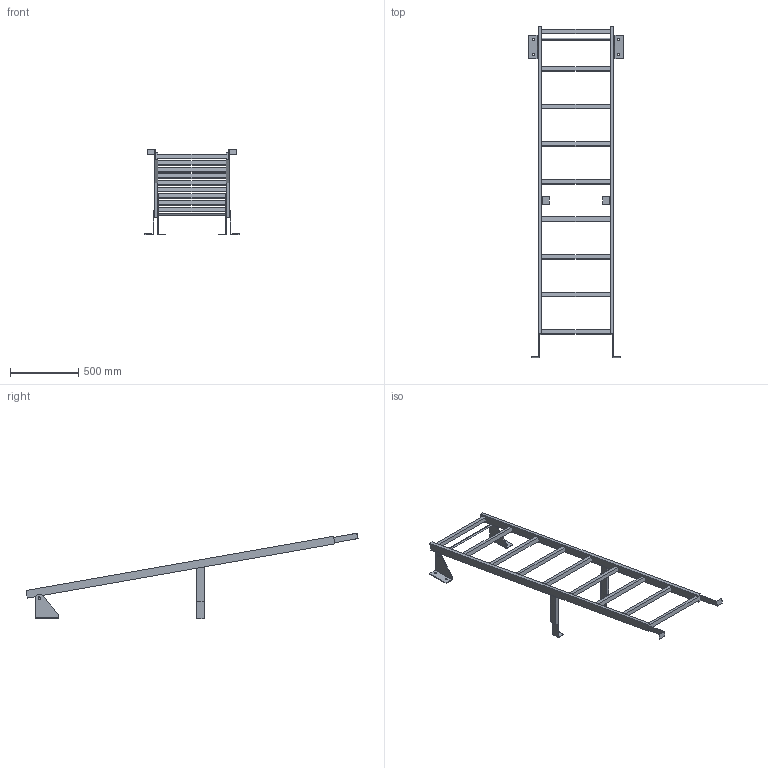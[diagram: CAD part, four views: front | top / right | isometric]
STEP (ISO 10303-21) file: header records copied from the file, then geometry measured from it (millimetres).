
FILE_DESCRIPTION((''),'2;1');
FILE_NAME('52309761','2024-10-17T08:59:10',('wep'),('HUBER SE'),'CREO PARAMETRIC BY PTC INC, 2022162','CREO PARAMETRIC BY PTC INC, 2022162','');
FILE_SCHEMA(('AUTOMOTIVE_DESIGN { 1 0 10303 214 1 1 1 1 }'));
Length unit declared in the file: millimetre
Products named in the file (1): 52309761
Bounding box: 690 x 2434.99 x 626.79 mm (x, y, z)
Volume: 11804109.7 mm3; surface area: 1640914.2 mm2
Topology: 6 solids, 6 shells, 120 faces, 312 edges, 208 vertices
Faces by surface type: plane 104, cylinder 16
Entity records: 4243 total; most frequent: CARTESIAN_POINT 642, ORIENTED_EDGE 624, DIRECTION 584, EDGE_CURVE 312, VECTOR 280, LINE 280, VERTEX_POINT 208, AXIS2_PLACEMENT_3D 152
